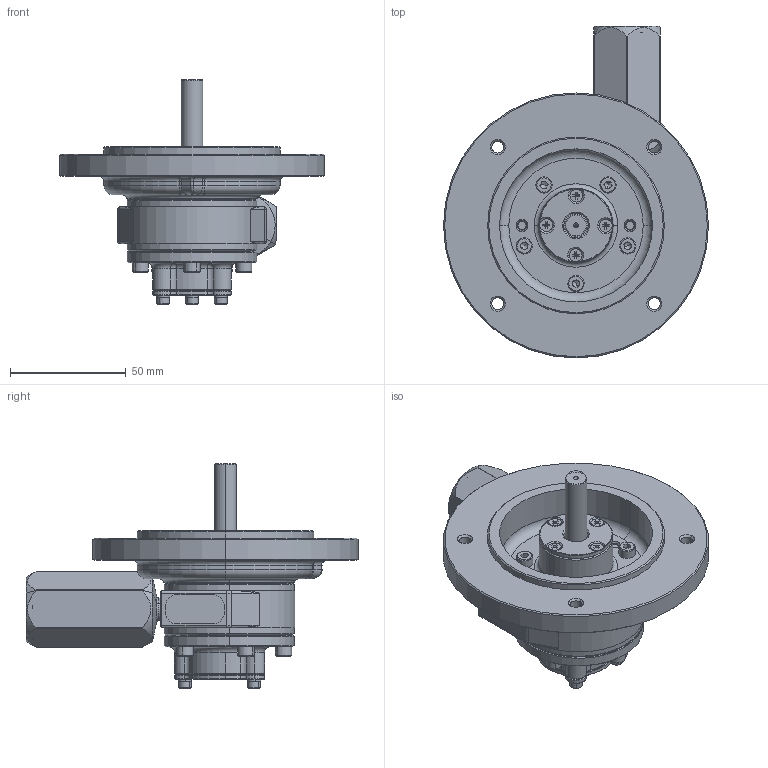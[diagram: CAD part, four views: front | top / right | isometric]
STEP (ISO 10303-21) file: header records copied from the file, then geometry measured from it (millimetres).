
FILE_DESCRIPTION (( 'STEP AP214' ), '1' );
FILE_NAME ('1VMN-SS (Nema).STEP', '2026-04-23T10:39:55', ( '' ), ( '' ), 'SwSTEP 2.0', 'SolidWorks 2017', '' );
FILE_SCHEMA (( 'AUTOMOTIVE_DESIGN' ));
Length unit declared in the file: millimetre
Products named in the file (2): 1VMN-SS (Nema)
Bounding box: 114.3 x 143.18 x 97.03 mm (x, y, z)
Surface area: 79744.3 mm2 (no closed solid volume)
Topology: 0 solids, 37 shells, 1329 faces, 3188 edges, 1914 vertices
Faces by surface type: plane 475, cone 389, cylinder 349, torus 96, bspline 11, sphere 9
Entity records: 54365 total; most frequent: CARTESIAN_POINT 8475, DIRECTION 6933, ORIENTED_EDGE 6025, EDGE_CURVE 3117, AXIS2_PLACEMENT_3D 2678, VERTEX_POINT 1912, LINE 1577, VECTOR 1577
